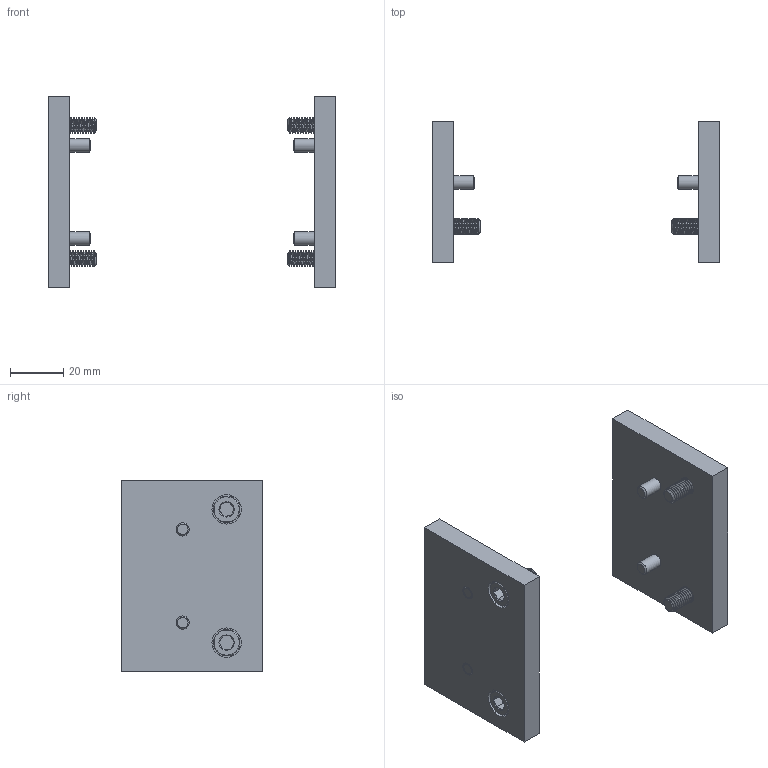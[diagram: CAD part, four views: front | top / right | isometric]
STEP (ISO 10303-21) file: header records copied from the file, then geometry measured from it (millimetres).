
FILE_DESCRIPTION (( 'STEP AP214' ), '1' );
FILE_NAME ('8800363.STEP', '2018-05-23T16:49:24', ( '' ), ( '' ), 'SwSTEP 2.0', 'SolidWorks 2018', '' );
FILE_SCHEMA (( 'AUTOMOTIVE_DESIGN' ));
Length unit declared in the file: millimetre
Products named in the file (4): 3201142_91595A352; 180903_91290A318; 3201118; 8800363
Assembly tree (10 placements, depth 2):
  8800363
    3201118  x2
    180903_91290A318  x4
    3201142_91595A352  x4
Bounding box: 108 x 53 x 72 mm (x, y, z)
Volume: 61729.7 mm3; surface area: 24399.9 mm2
Topology: 10 solids, 10 shells, 192 faces, 416 edges, 256 vertices
Faces by surface type: cylinder 72, plane 64, cone 48, bspline 8
Full cylindrical faces by diameter (mm): 5 x8, 6 x44, 6.6 x4, 10 x4, 11 x4
Entity records: 2642 total; most frequent: CARTESIAN_POINT 1607, DIRECTION 198, ORIENTED_EDGE 140, AXIS2_PLACEMENT_3D 87, EDGE_CURVE 70, EDGE_LOOP 70, FACE_OUTER_BOUND 53, VERTEX_POINT 50
